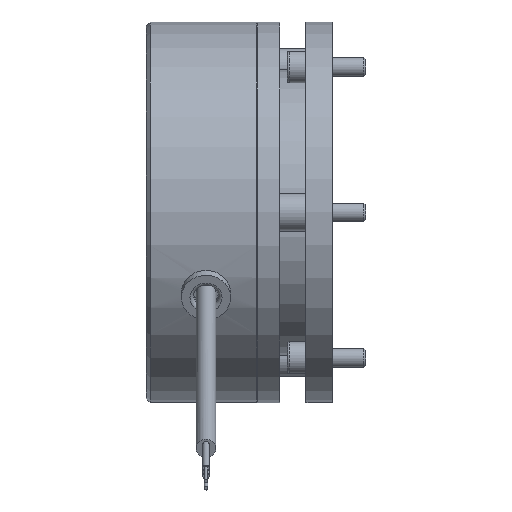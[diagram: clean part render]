
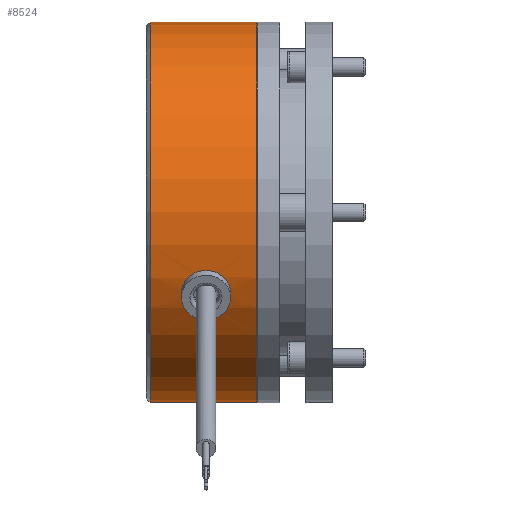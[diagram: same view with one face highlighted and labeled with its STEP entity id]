
A CAD part, front view. The second image highlights one B-rep face of the part: STEP entity #8524.
In plain terms, the highlighted cylindrical face has radius 51 mm (diameter 102 mm), a full revolution.
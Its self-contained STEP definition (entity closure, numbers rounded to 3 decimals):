
#266=B_SPLINE_CURVE_WITH_KNOTS('',3,(#14362,#14363,#14364,#14365,#14366,
#14367,#14368,#14369,#14370,#14371,#14372,#14373,#14374,#14375,#14376,#14377,
#14378,#14379,#14380),.UNSPECIFIED.,.F.,.F.,(4,2,2,2,3,2,2,2,4),(2.301,
2.492,2.684,2.876,3.067,3.259,
3.451,3.643,3.834),.UNSPECIFIED.);
#267=B_SPLINE_CURVE_WITH_KNOTS('',3,(#14383,#14384,#14385,#14386,#14387,
#14388,#14389,#14390,#14391,#14392,#14393,#14394,#14395,#14396,#14397,#14398,
#14399,#14400),.UNSPECIFIED.,.F.,.F.,(4,2,2,2,2,2,2,2,4),(0.767,
0.959,1.151,1.342,1.534,1.725,
1.916,2.108,2.301),.UNSPECIFIED.);
#522=CYLINDRICAL_SURFACE('',#9266,51.);
#687=FACE_BOUND('',#1950,.T.);
#994=CIRCLE('',#9267,51.);
#995=CIRCLE('',#9268,51.);
#996=CIRCLE('',#9269,51.);
#997=CIRCLE('',#9270,51.);
#1473=FACE_OUTER_BOUND('',#1949,.T.);
#1949=EDGE_LOOP('',(#6645,#6646,#6647,#6648,#6649,#6650));
#1950=EDGE_LOOP('',(#6651,#6652,#6653,#6654,#6655,#6656));
#2491=LINE('',#14443,#2902);
#2492=LINE('',#14447,#2903);
#2493=LINE('',#14448,#2904);
#2902=VECTOR('',#11008,51.);
#2903=VECTOR('',#11013,10.);
#2904=VECTOR('',#11014,10.);
#3554=VERTEX_POINT('',#14360);
#3555=VERTEX_POINT('',#14361);
#3556=VERTEX_POINT('',#14403);
#3557=VERTEX_POINT('',#14405);
#3567=VERTEX_POINT('',#14438);
#3568=VERTEX_POINT('',#14439);
#3569=VERTEX_POINT('',#14442);
#3570=VERTEX_POINT('',#14444);
#4638=EDGE_CURVE('',#3554,#3555,#266,.T.);
#4640=EDGE_CURVE('',#3555,#3554,#267,.T.);
#4659=EDGE_CURVE('',#3567,#3568,#994,.T.);
#4660=EDGE_CURVE('',#3568,#3567,#995,.T.);
#4661=EDGE_CURVE('',#3568,#3569,#2491,.T.);
#4662=EDGE_CURVE('',#3570,#3569,#996,.T.);
#4663=EDGE_CURVE('',#3569,#3570,#997,.T.);
#4664=EDGE_CURVE('',#3554,#3556,#2492,.T.);
#4665=EDGE_CURVE('',#3555,#3557,#2493,.T.);
#6645=ORIENTED_EDGE('',*,*,#4659,.F.);
#6646=ORIENTED_EDGE('',*,*,#4660,.F.);
#6647=ORIENTED_EDGE('',*,*,#4661,.T.);
#6648=ORIENTED_EDGE('',*,*,#4662,.F.);
#6649=ORIENTED_EDGE('',*,*,#4663,.F.);
#6650=ORIENTED_EDGE('',*,*,#4661,.F.);
#6651=ORIENTED_EDGE('',*,*,#4664,.T.);
#6652=ORIENTED_EDGE('',*,*,#4664,.F.);
#6653=ORIENTED_EDGE('',*,*,#4638,.T.);
#6654=ORIENTED_EDGE('',*,*,#4665,.T.);
#6655=ORIENTED_EDGE('',*,*,#4665,.F.);
#6656=ORIENTED_EDGE('',*,*,#4640,.T.);
#8524=ADVANCED_FACE('',(#1473,#687),#522,.T.);
#9266=AXIS2_PLACEMENT_3D('',#14437,#11002,#11003);
#9267=AXIS2_PLACEMENT_3D('',#14440,#11004,#11005);
#9268=AXIS2_PLACEMENT_3D('',#14441,#11006,#11007);
#9269=AXIS2_PLACEMENT_3D('',#14445,#11009,#11010);
#9270=AXIS2_PLACEMENT_3D('',#14446,#11011,#11012);
#11002=DIRECTION('center_axis',(1.,0.,0.));
#11003=DIRECTION('ref_axis',(0.,1.,0.));
#11004=DIRECTION('center_axis',(1.,0.,0.));
#11005=DIRECTION('ref_axis',(0.,1.,0.));
#11006=DIRECTION('center_axis',(1.,0.,0.));
#11007=DIRECTION('ref_axis',(0.,1.,0.));
#11008=DIRECTION('',(-1.,0.,0.));
#11009=DIRECTION('center_axis',(-1.,0.,0.));
#11010=DIRECTION('ref_axis',(0.,-1.,0.));
#11011=DIRECTION('center_axis',(-1.,0.,0.));
#11012=DIRECTION('ref_axis',(0.,-1.,0.));
#11013=DIRECTION('',(-1.,0.,0.));
#11014=DIRECTION('',(1.,0.,0.));
#14360=CARTESIAN_POINT('',(-18.7,-46.222,-21.554));
#14361=CARTESIAN_POINT('',(-8.5,-46.222,-21.554));
#14362=CARTESIAN_POINT('Ctrl Pts',(-18.7,-46.222,
-21.554));
#14363=CARTESIAN_POINT('Ctrl Pts',(-18.7,-46.492,
-20.974));
#14364=CARTESIAN_POINT('Ctrl Pts',(-18.571,-46.768,
-20.351));
#14365=CARTESIAN_POINT('Ctrl Pts',(-18.048,-47.254,
-19.196));
#14366=CARTESIAN_POINT('Ctrl Pts',(-17.654,-47.464,
-18.665));
#14367=CARTESIAN_POINT('Ctrl Pts',(-16.747,-47.786,
-17.824));
#14368=CARTESIAN_POINT('Ctrl Pts',(-16.174,-47.92,-17.457));
#14369=CARTESIAN_POINT('Ctrl Pts',(-14.92,-48.094,-16.97));
#14370=CARTESIAN_POINT('Ctrl Pts',(-14.239,-48.136,
-16.85));
#14371=CARTESIAN_POINT('Ctrl Pts',(-13.6,-48.136,
-16.85));
#14372=CARTESIAN_POINT('Ctrl Pts',(-12.961,-48.136,
-16.85));
#14373=CARTESIAN_POINT('Ctrl Pts',(-12.28,-48.094,
-16.97));
#14374=CARTESIAN_POINT('Ctrl Pts',(-11.026,-47.92,
-17.457));
#14375=CARTESIAN_POINT('Ctrl Pts',(-10.453,-47.786,-17.824));
#14376=CARTESIAN_POINT('Ctrl Pts',(-9.546,-47.464,
-18.665));
#14377=CARTESIAN_POINT('Ctrl Pts',(-9.152,-47.254,
-19.196));
#14378=CARTESIAN_POINT('Ctrl Pts',(-8.629,-46.768,
-20.351));
#14379=CARTESIAN_POINT('Ctrl Pts',(-8.5,-46.492,
-20.974));
#14380=CARTESIAN_POINT('Ctrl Pts',(-8.5,-46.222,
-21.554));
#14383=CARTESIAN_POINT('Ctrl Pts',(-8.5,-46.222,
-21.554));
#14384=CARTESIAN_POINT('Ctrl Pts',(-8.5,-45.951,
-22.133));
#14385=CARTESIAN_POINT('Ctrl Pts',(-8.629,-45.651,
-22.745));
#14386=CARTESIAN_POINT('Ctrl Pts',(-9.152,-45.079,
-23.859));
#14387=CARTESIAN_POINT('Ctrl Pts',(-9.546,-44.807,
-24.362));
#14388=CARTESIAN_POINT('Ctrl Pts',(-10.453,-44.37,-25.149));
#14389=CARTESIAN_POINT('Ctrl Pts',(-11.026,-44.175,
-25.487));
#14390=CARTESIAN_POINT('Ctrl Pts',(-12.28,-43.914,
-25.934));
#14391=CARTESIAN_POINT('Ctrl Pts',(-12.961,-43.849,
-26.043));
#14392=CARTESIAN_POINT('Ctrl Pts',(-14.238,-43.849,
-26.043));
#14393=CARTESIAN_POINT('Ctrl Pts',(-14.918,-43.914,
-25.935));
#14394=CARTESIAN_POINT('Ctrl Pts',(-16.171,-44.174,-25.489));
#14395=CARTESIAN_POINT('Ctrl Pts',(-16.743,-44.369,-25.152));
#14396=CARTESIAN_POINT('Ctrl Pts',(-17.651,-44.806,
-24.365));
#14397=CARTESIAN_POINT('Ctrl Pts',(-18.046,-45.078,
-23.862));
#14398=CARTESIAN_POINT('Ctrl Pts',(-18.571,-45.651,
-22.747));
#14399=CARTESIAN_POINT('Ctrl Pts',(-18.7,-45.951,
-22.134));
#14400=CARTESIAN_POINT('Ctrl Pts',(-18.7,-46.222,
-21.554));
#14403=CARTESIAN_POINT('',(-20.2,-46.222,-21.554));
#14405=CARTESIAN_POINT('',(-7.,-46.222,-21.554));
#14437=CARTESIAN_POINT('Origin',(-14.8,0.,0.));
#14438=CARTESIAN_POINT('',(0.,0.,
51.));
#14439=CARTESIAN_POINT('',(0.,-51.,0.));
#14440=CARTESIAN_POINT('Origin',(0.,0.,
0.));
#14441=CARTESIAN_POINT('Origin',(0.,0.,
0.));
#14442=CARTESIAN_POINT('',(-28.6,-51.,0.));
#14443=CARTESIAN_POINT('',(-14.8,-51.,0.));
#14444=CARTESIAN_POINT('',(-28.6,51.,0.));
#14445=CARTESIAN_POINT('Origin',(-28.6,0.,0.));
#14446=CARTESIAN_POINT('Origin',(-28.6,0.,0.));
#14447=CARTESIAN_POINT('',(0.,-46.222,-21.554));
#14448=CARTESIAN_POINT('',(-14.8,-46.222,-21.554));
